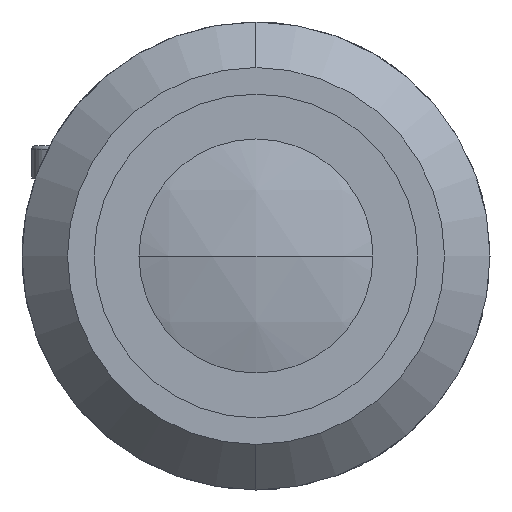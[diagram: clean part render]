
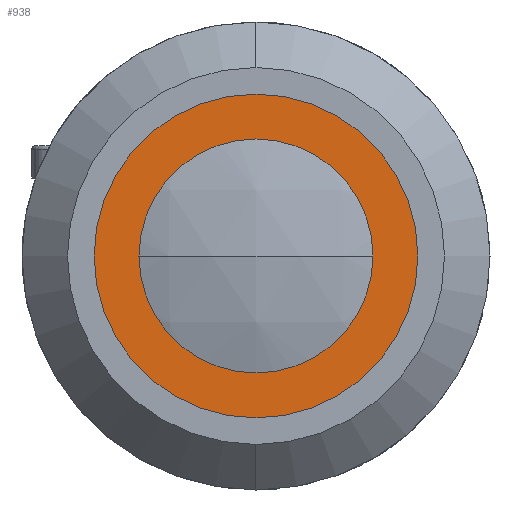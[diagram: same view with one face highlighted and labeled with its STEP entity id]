
A CAD part, left-side view. The second image highlights one B-rep face of the part: STEP entity #938.
In plain terms, the highlighted planar face has unit normal (-1, 0, 0).
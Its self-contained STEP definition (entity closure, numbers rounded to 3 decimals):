
#48 = CARTESIAN_POINT ( 'NONE',  ( 3.5, 0., 13.2 ) ) ;
#110 = DIRECTION ( 'NONE',  ( -1., 0., 0. ) ) ;
#122 = EDGE_CURVE ( 'NONE', #2891, #2175, #3354, .T. ) ;
#327 = EDGE_CURVE ( 'NONE', #2175, #2891, #2465, .T. ) ;
#434 = VERTEX_POINT ( 'NONE', #918 ) ;
#479 = DIRECTION ( 'NONE',  ( -1., 0., 0. ) ) ;
#765 = AXIS2_PLACEMENT_3D ( 'NONE', #1151, #3076, #1427 ) ;
#772 = CIRCLE ( 'NONE', #3090, 9. ) ;
#918 = CARTESIAN_POINT ( 'NONE',  ( 3.5, 0., -9. ) ) ;
#938 = ADVANCED_FACE ( 'NONE', ( #1163, #1118 ), #1121, .F. ) ;
#1047 = AXIS2_PLACEMENT_3D ( 'NONE', #2962, #1308, #3209 ) ;
#1066 = CIRCLE ( 'NONE', #1130, 9. ) ;
#1118 = FACE_OUTER_BOUND ( 'NONE', #2240, .T. ) ;
#1121 = PLANE ( 'NONE',  #3252 ) ;
#1130 = AXIS2_PLACEMENT_3D ( 'NONE', #2191, #479, #2466 ) ;
#1151 = CARTESIAN_POINT ( 'NONE',  ( 3.5, 0., 0. ) ) ;
#1163 = FACE_BOUND ( 'NONE', #2208, .T. ) ;
#1176 = EDGE_CURVE ( 'NONE', #434, #1287, #772, .T. ) ;
#1287 = VERTEX_POINT ( 'NONE', #2302 ) ;
#1308 = DIRECTION ( 'NONE',  ( -1., 0., 0. ) ) ;
#1403 = DIRECTION ( 'NONE',  ( 0., 0., -1. ) ) ;
#1427 = DIRECTION ( 'NONE',  ( 0., 0., 1. ) ) ;
#1549 = ORIENTED_EDGE ( 'NONE', *, *, #2488, .F. ) ;
#1560 = ORIENTED_EDGE ( 'NONE', *, *, #1176, .F. ) ;
#1593 = ORIENTED_EDGE ( 'NONE', *, *, #122, .T. ) ;
#1597 = ORIENTED_EDGE ( 'NONE', *, *, #327, .T. ) ;
#1831 = CARTESIAN_POINT ( 'NONE',  ( 3.5, 0., 0. ) ) ;
#2108 = DIRECTION ( 'NONE',  ( 0., 0., 1. ) ) ;
#2175 = VERTEX_POINT ( 'NONE', #2199 ) ;
#2191 = CARTESIAN_POINT ( 'NONE',  ( 3.5, 0., 0. ) ) ;
#2199 = CARTESIAN_POINT ( 'NONE',  ( 3.5, 0., -13.2 ) ) ;
#2208 = EDGE_LOOP ( 'NONE', ( #1549, #1560 ) ) ;
#2240 = EDGE_LOOP ( 'NONE', ( #1593, #1597 ) ) ;
#2302 = CARTESIAN_POINT ( 'NONE',  ( 3.5, 0., 9. ) ) ;
#2465 = CIRCLE ( 'NONE', #765, 13.2 ) ;
#2466 = DIRECTION ( 'NONE',  ( 0., 0., 1. ) ) ;
#2488 = EDGE_CURVE ( 'NONE', #1287, #434, #1066, .T. ) ;
#2799 = CARTESIAN_POINT ( 'NONE',  ( 3.5, 13.2, 0. ) ) ;
#2891 = VERTEX_POINT ( 'NONE', #48 ) ;
#2962 = CARTESIAN_POINT ( 'NONE',  ( 3.5, 0., 0. ) ) ;
#3054 = DIRECTION ( 'NONE',  ( 1., 0., 0. ) ) ;
#3076 = DIRECTION ( 'NONE',  ( -1., 0., 0. ) ) ;
#3090 = AXIS2_PLACEMENT_3D ( 'NONE', #1831, #110, #2108 ) ;
#3209 = DIRECTION ( 'NONE',  ( 0., 0., 1. ) ) ;
#3252 = AXIS2_PLACEMENT_3D ( 'NONE', #2799, #3054, #1403 ) ;
#3354 = CIRCLE ( 'NONE', #1047, 13.2 ) ;
